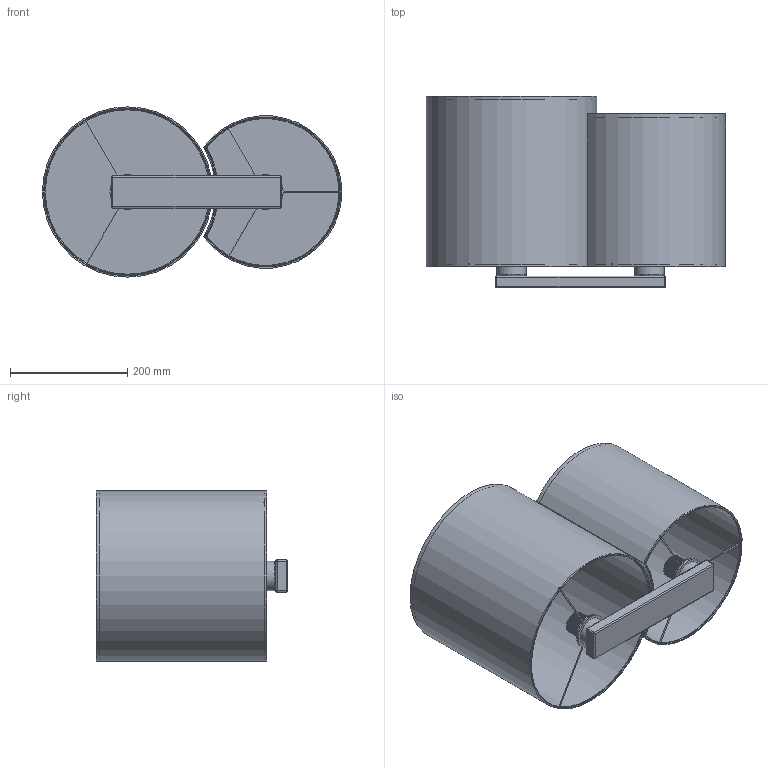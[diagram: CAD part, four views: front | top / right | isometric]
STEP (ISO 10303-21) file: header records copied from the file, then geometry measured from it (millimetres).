
FILE_DESCRIPTION(/* description */ (''),/* implementation_level */ '2;1');
FILE_NAME(/* name */ 'C:/Users/kubaw/OneDrive/Pulpit/TK_lighting - modele 2/OK/4391_MONA v10/4391_MONA v10.step',/* time_stamp */ '2021-03-31T19:50:36+02:00',/* author */ (''),/* organization */ (''),/* preprocessor_version */ 'ST-DEVELOPER v18.1',/* originating_system */ 'Autodesk Translation Framework v9.10.0.1330',/* authorisation */ '');
FILE_SCHEMA (('AUTOMOTIVE_DESIGN { 1 0 10303 214 3 1 1 }'));
Length unit declared in the file: millimetre
Products named in the file (2): 4391_MONA; MOCOWANIE_MONA
Assembly tree (2 placements, depth 2):
  4391_MONA
    MOCOWANIE_MONA  x2
Bounding box: 509.51 x 326 x 290 mm (x, y, z)
Volume: 1060981.4 mm3; surface area: 1284860.6 mm2
Topology: 35 solids, 35 shells, 344 faces, 676 edges, 420 vertices
Faces by surface type: cylinder 167, plane 124, sphere 28, torus 13, bspline 12
Full cylindrical faces by diameter (mm): 2 x12, 3 x10, 32 x2, 34.939 x26, 42 x2, 46 x2, 50 x2, 56 x2, 60 x2, 280 x1, 282 x1, 284 x1, 288 x1, 290 x1
Entity records: 12578 total; most frequent: CARTESIAN_POINT 8105, DIRECTION 945, ORIENTED_EDGE 834, EDGE_CURVE 417, AXIS2_PLACEMENT_3D 390, VERTEX_POINT 258, EDGE_LOOP 233, FACE_OUTER_BOUND 216
